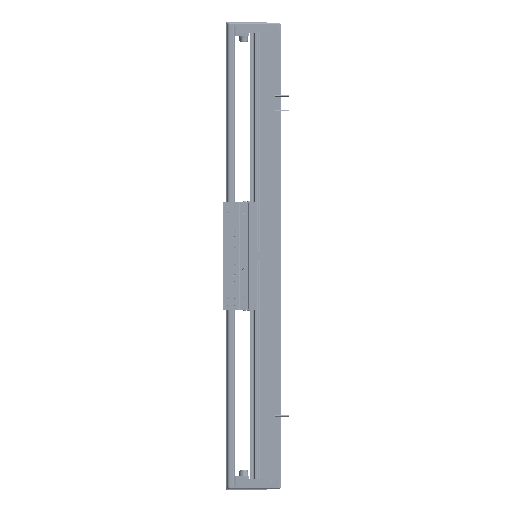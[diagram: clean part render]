
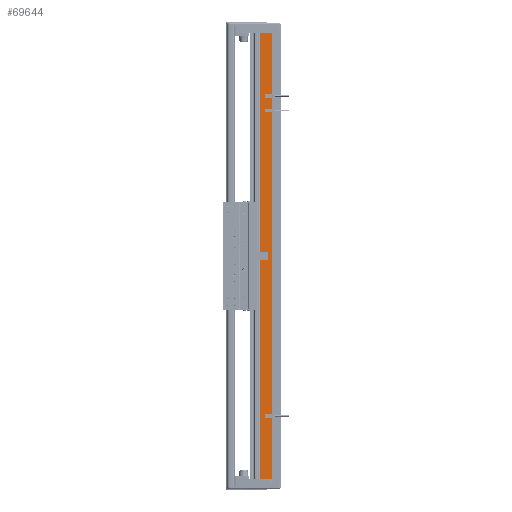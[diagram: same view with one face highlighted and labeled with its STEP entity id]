
A CAD part, left-side view. The second image highlights one B-rep face of the part: STEP entity #69644.
In plain terms, the highlighted planar face has unit normal (-1, 0, 0).
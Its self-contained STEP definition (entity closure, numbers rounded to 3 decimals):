
#513 = ORIENTED_EDGE ( 'NONE', *, *, #8183, .F. ) ;
#8183 = EDGE_CURVE ( 'NONE', #54450, #17099, #114726, .T. ) ;
#14155 = VERTEX_POINT ( 'NONE', #89319 ) ;
#17099 = VERTEX_POINT ( 'NONE', #108660 ) ;
#17660 = CARTESIAN_POINT ( 'NONE',  ( -97.5, 14.45, 390. ) ) ;
#19018 = DIRECTION ( 'NONE',  ( 0., 0., -1. ) ) ;
#22360 = VERTEX_POINT ( 'NONE', #81545 ) ;
#23428 = ORIENTED_EDGE ( 'NONE', *, *, #106038, .F. ) ;
#26605 = DIRECTION ( 'NONE',  ( 0., -1., 0. ) ) ;
#41678 = AXIS2_PLACEMENT_3D ( 'NONE', #64597, #94687, #52685 ) ;
#51327 = FACE_OUTER_BOUND ( 'NONE', #61138, .T. ) ;
#52685 = DIRECTION ( 'NONE',  ( 0., 1., 0. ) ) ;
#54450 = VERTEX_POINT ( 'NONE', #76686 ) ;
#61138 = EDGE_LOOP ( 'NONE', ( #69624, #513, #23428, #123977 ) ) ;
#62231 = EDGE_CURVE ( 'NONE', #22360, #14155, #92065, .T. ) ;
#64597 = CARTESIAN_POINT ( 'NONE',  ( -97.5, 36.95, 390. ) ) ;
#69536 = VECTOR ( 'NONE', #103217, 1000. ) ;
#69624 = ORIENTED_EDGE ( 'NONE', *, *, #83198, .T. ) ;
#69644 = ADVANCED_FACE ( 'NONE', ( #51327 ), #82829, .F. ) ;
#76686 = CARTESIAN_POINT ( 'NONE',  ( -97.5, 14.45, 390. ) ) ;
#81545 = CARTESIAN_POINT ( 'NONE',  ( -97.5, 36.95, 390. ) ) ;
#82829 = PLANE ( 'NONE',  #41678 ) ;
#83198 = EDGE_CURVE ( 'NONE', #14155, #17099, #100709, .T. ) ;
#89319 = CARTESIAN_POINT ( 'NONE',  ( -97.5, 36.95, -390. ) ) ;
#92065 = LINE ( 'NONE', #124097, #69536 ) ;
#93376 = CARTESIAN_POINT ( 'NONE',  ( -97.5, 36.95, 390. ) ) ;
#94687 = DIRECTION ( 'NONE',  ( 1., 0., 0. ) ) ;
#96145 = DIRECTION ( 'NONE',  ( 0., -1., 0. ) ) ;
#98840 = VECTOR ( 'NONE', #96145, 1000. ) ;
#100709 = LINE ( 'NONE', #122301, #109877 ) ;
#103217 = DIRECTION ( 'NONE',  ( 0., 0., -1. ) ) ;
#106038 = EDGE_CURVE ( 'NONE', #22360, #54450, #137297, .T. ) ;
#108660 = CARTESIAN_POINT ( 'NONE',  ( -97.5, 14.45, -390. ) ) ;
#109877 = VECTOR ( 'NONE', #26605, 1000. ) ;
#114726 = LINE ( 'NONE', #17660, #116287 ) ;
#116287 = VECTOR ( 'NONE', #19018, 1000. ) ;
#122301 = CARTESIAN_POINT ( 'NONE',  ( -97.5, 36.95, -390. ) ) ;
#123977 = ORIENTED_EDGE ( 'NONE', *, *, #62231, .T. ) ;
#124097 = CARTESIAN_POINT ( 'NONE',  ( -97.5, 36.95, 390. ) ) ;
#137297 = LINE ( 'NONE', #93376, #98840 ) ;
